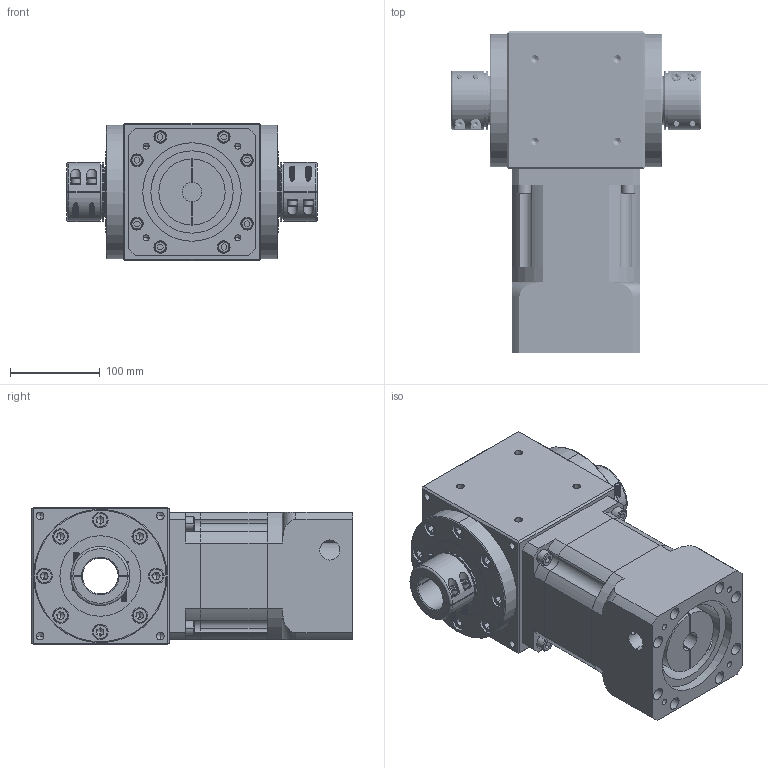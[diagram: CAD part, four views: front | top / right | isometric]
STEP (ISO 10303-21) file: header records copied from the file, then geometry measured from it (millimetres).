
FILE_DESCRIPTION (( 'STEP AP214' ), '1' );
FILE_NAME ('RAM150-L1-XX-D-22-110-145-M8_2019.STEP', '2019-04-10T00:48:57', ( 'Y' ), ( 'NCU' ), 'SwSTEP 2.0', 'SolidWorks 2016', '' );
FILE_SCHEMA (( 'AUTOMOTIVE_DESIGN' ));
Length unit declared in the file: millimetre
Products named in the file (1): RAM150-L1-XX-D-22-110-145-M8_2019
Bounding box: 280 x 359 x 154 mm (x, y, z)
Volume: 7686924.3 mm3; surface area: 586381.6 mm2
Topology: 4 solids, 20 shells, 1621 faces, 4228 edges, 2576 vertices
Faces by surface type: cylinder 672, plane 633, cone 150, bspline 90, torus 76
Entity records: 168762 total; most frequent: CARTESIAN_POINT 130679, ORIENTED_EDGE 8264, DIRECTION 7244, EDGE_CURVE 4132, AXIS2_PLACEMENT_3D 2740, VERTEX_POINT 2576, EDGE_LOOP 1816, VECTOR 1764
